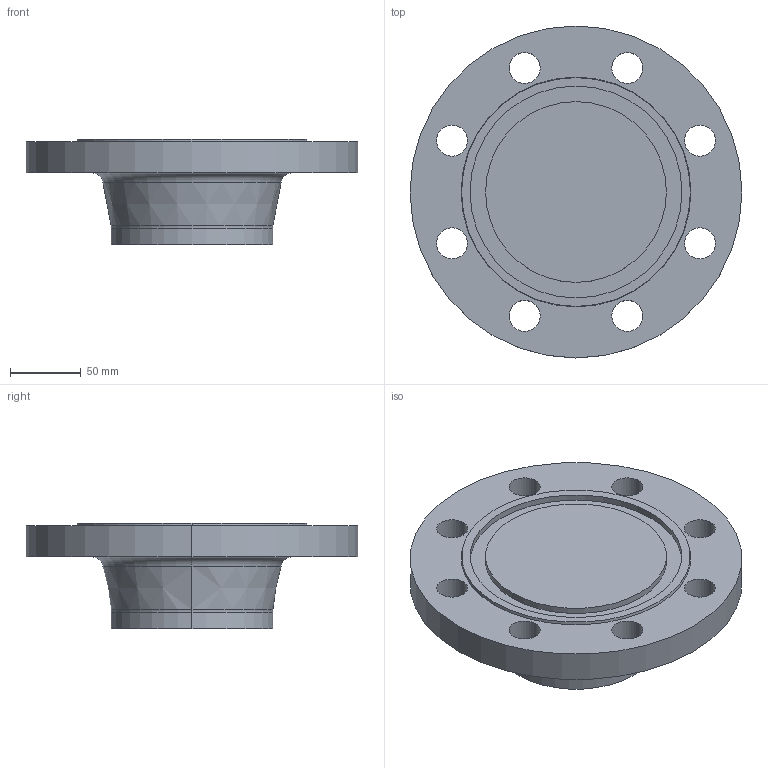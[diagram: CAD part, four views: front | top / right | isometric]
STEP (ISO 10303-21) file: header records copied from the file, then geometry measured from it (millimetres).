
FILE_DESCRIPTION (( 'STEP AP214' ), '1' );
FILE_NAME ('PN40 DN100 Type 21(ii) - Type D Face.STEP', '2019-01-02T00:13:25', ( '' ), ( '' ), 'SwSTEP 2.0', 'SolidWorks 2019', '' );
FILE_SCHEMA (( 'AUTOMOTIVE_DESIGN' ));
Length unit declared in the file: millimetre
Products named in the file (1): PN40 DN100 Type 21(ii) - Type D Face
Bounding box: 235 x 235 x 75 mm (x, y, z)
Volume: 1485680.5 mm3; surface area: 129674.9 mm2
Topology: 1 solids, 1 shells, 38 faces, 90 edges, 58 vertices
Faces by surface type: cylinder 24, plane 6, torus 4, cone 4
Entity records: 1194 total; most frequent: DIRECTION 230, CARTESIAN_POINT 187, ORIENTED_EDGE 180, AXIS2_PLACEMENT_3D 101, EDGE_CURVE 90, CIRCLE 62, VERTEX_POINT 58, EDGE_LOOP 58
